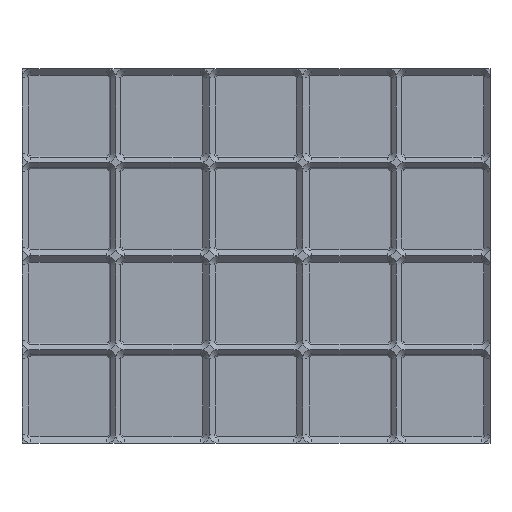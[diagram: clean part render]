
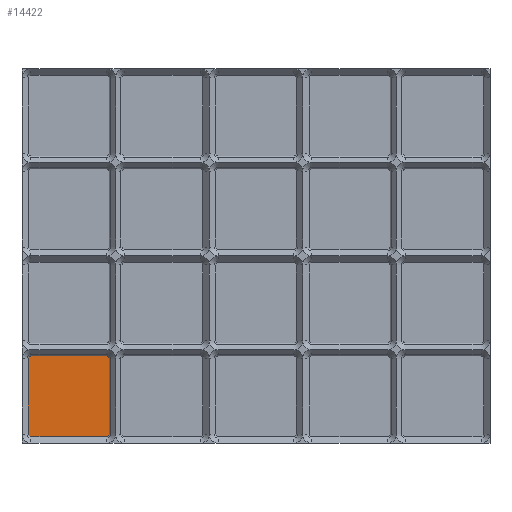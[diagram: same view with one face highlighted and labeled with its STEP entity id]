
A CAD part, top view. The second image highlights one B-rep face of the part: STEP entity #14422.
In plain terms, the highlighted planar face has unit normal (0, 0, 1).
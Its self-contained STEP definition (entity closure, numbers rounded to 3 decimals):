
#5151 = PLANE('',#5152);
#5152 = AXIS2_PLACEMENT_3D('',#5153,#5154,#5155);
#5153 = CARTESIAN_POINT('',(2.85,21.,1.27));
#5154 = DIRECTION('',(-1.,0.,0.));
#5155 = DIRECTION('',(-0.,-1.,-0.));
#7639 = PLANE('',#7640);
#7640 = AXIS2_PLACEMENT_3D('',#7641,#7642,#7643);
#7641 = CARTESIAN_POINT('',(21.,2.85,1.27));
#7642 = DIRECTION('',(0.,-1.,0.));
#7643 = DIRECTION('',(1.,0.,0.));
#8966 = CYLINDRICAL_SURFACE('',#8967,1.15);
#8967 = AXIS2_PLACEMENT_3D('',#8968,#8969,#8970);
#8968 = CARTESIAN_POINT('',(4.,4.,1.));
#8969 = DIRECTION('',(-0.,-0.,1.));
#8970 = DIRECTION('',(-1.,0.,0.));
#8984 = EDGE_CURVE('',#8985,#8987,#8989,.T.);
#8985 = VERTEX_POINT('',#8986);
#8986 = CARTESIAN_POINT('',(2.85,4.,1.));
#8987 = VERTEX_POINT('',#8988);
#8988 = CARTESIAN_POINT('',(2.85,38.,1.));
#8989 = SURFACE_CURVE('',#8990,(#8994,#9001),.PCURVE_S1.);
#8990 = LINE('',#8991,#8992);
#8991 = CARTESIAN_POINT('',(2.85,21.,1.));
#8992 = VECTOR('',#8993,1.);
#8993 = DIRECTION('',(0.,1.,0.));
#8994 = PCURVE('',#5151,#8995);
#8995 = DEFINITIONAL_REPRESENTATION('',(#8996),#9000);
#8996 = LINE('',#8997,#8998);
#8997 = CARTESIAN_POINT('',(0.,-0.27));
#8998 = VECTOR('',#8999,1.);
#8999 = DIRECTION('',(-1.,0.));
#9000 = ( GEOMETRIC_REPRESENTATION_CONTEXT(2) 
PARAMETRIC_REPRESENTATION_CONTEXT() REPRESENTATION_CONTEXT('2D SPACE',''
  ) );
#9001 = PCURVE('',#9002,#9007);
#9002 = PLANE('',#9003);
#9003 = AXIS2_PLACEMENT_3D('',#9004,#9005,#9006);
#9004 = CARTESIAN_POINT('',(4.,4.,1.));
#9005 = DIRECTION('',(0.,0.,-1.));
#9006 = DIRECTION('',(-1.,0.,0.));
#9007 = DEFINITIONAL_REPRESENTATION('',(#9008),#9012);
#9008 = LINE('',#9009,#9010);
#9009 = CARTESIAN_POINT('',(1.15,17.));
#9010 = VECTOR('',#9011,1.);
#9011 = DIRECTION('',(0.,1.));
#9012 = ( GEOMETRIC_REPRESENTATION_CONTEXT(2) 
PARAMETRIC_REPRESENTATION_CONTEXT() REPRESENTATION_CONTEXT('2D SPACE',''
  ) );
#9045 = CYLINDRICAL_SURFACE('',#9046,1.15);
#9046 = AXIS2_PLACEMENT_3D('',#9047,#9048,#9049);
#9047 = CARTESIAN_POINT('',(4.,38.,1.));
#9048 = DIRECTION('',(-0.,-0.,1.));
#9049 = DIRECTION('',(-1.,0.,0.));
#12662 = EDGE_CURVE('',#12663,#12665,#12667,.T.);
#12663 = VERTEX_POINT('',#12664);
#12664 = CARTESIAN_POINT('',(4.,2.85,1.));
#12665 = VERTEX_POINT('',#12666);
#12666 = CARTESIAN_POINT('',(38.,2.85,1.));
#12667 = SURFACE_CURVE('',#12668,(#12672,#12679),.PCURVE_S1.);
#12668 = LINE('',#12669,#12670);
#12669 = CARTESIAN_POINT('',(21.,2.85,1.));
#12670 = VECTOR('',#12671,1.);
#12671 = DIRECTION('',(1.,0.,0.));
#12672 = PCURVE('',#7639,#12673);
#12673 = DEFINITIONAL_REPRESENTATION('',(#12674),#12678);
#12674 = LINE('',#12675,#12676);
#12675 = CARTESIAN_POINT('',(0.,-0.27));
#12676 = VECTOR('',#12677,1.);
#12677 = DIRECTION('',(1.,0.));
#12678 = ( GEOMETRIC_REPRESENTATION_CONTEXT(2) 
PARAMETRIC_REPRESENTATION_CONTEXT() REPRESENTATION_CONTEXT('2D SPACE',''
  ) );
#12679 = PCURVE('',#9002,#12680);
#12680 = DEFINITIONAL_REPRESENTATION('',(#12681),#12685);
#12681 = LINE('',#12682,#12683);
#12682 = CARTESIAN_POINT('',(-17.,-1.15));
#12683 = VECTOR('',#12684,1.);
#12684 = DIRECTION('',(-1.,0.));
#12685 = ( GEOMETRIC_REPRESENTATION_CONTEXT(2) 
PARAMETRIC_REPRESENTATION_CONTEXT() REPRESENTATION_CONTEXT('2D SPACE',''
  ) );
#12699 = CYLINDRICAL_SURFACE('',#12700,1.15);
#12700 = AXIS2_PLACEMENT_3D('',#12701,#12702,#12703);
#12701 = CARTESIAN_POINT('',(38.,4.,1.));
#12702 = DIRECTION('',(-0.,-0.,1.));
#12703 = DIRECTION('',(-1.,0.,0.));
#14398 = EDGE_CURVE('',#12663,#8985,#14399,.T.);
#14399 = SURFACE_CURVE('',#14400,(#14405,#14412),.PCURVE_S1.);
#14400 = CIRCLE('',#14401,1.15);
#14401 = AXIS2_PLACEMENT_3D('',#14402,#14403,#14404);
#14402 = CARTESIAN_POINT('',(4.,4.,1.));
#14403 = DIRECTION('',(0.,0.,-1.));
#14404 = DIRECTION('',(-1.,0.,0.));
#14405 = PCURVE('',#8966,#14406);
#14406 = DEFINITIONAL_REPRESENTATION('',(#14407),#14411);
#14407 = LINE('',#14408,#14409);
#14408 = CARTESIAN_POINT('',(6.283,0.));
#14409 = VECTOR('',#14410,1.);
#14410 = DIRECTION('',(-1.,0.));
#14411 = ( GEOMETRIC_REPRESENTATION_CONTEXT(2) 
PARAMETRIC_REPRESENTATION_CONTEXT() REPRESENTATION_CONTEXT('2D SPACE',''
  ) );
#14412 = PCURVE('',#9002,#14413);
#14413 = DEFINITIONAL_REPRESENTATION('',(#14414),#14418);
#14414 = CIRCLE('',#14415,1.15);
#14415 = AXIS2_PLACEMENT_2D('',#14416,#14417);
#14416 = CARTESIAN_POINT('',(0.,0.));
#14417 = DIRECTION('',(1.,0.));
#14418 = ( GEOMETRIC_REPRESENTATION_CONTEXT(2) 
PARAMETRIC_REPRESENTATION_CONTEXT() REPRESENTATION_CONTEXT('2D SPACE',''
  ) );
#14422 = ADVANCED_FACE('',(#14423),#9002,.F.);
#14423 = FACE_BOUND('',#14424,.T.);
#14424 = EDGE_LOOP('',(#14425,#14426,#14427,#14428,#14452,#14480,#14509,
    #14537));
#14425 = ORIENTED_EDGE('',*,*,#8984,.F.);
#14426 = ORIENTED_EDGE('',*,*,#14398,.F.);
#14427 = ORIENTED_EDGE('',*,*,#12662,.T.);
#14428 = ORIENTED_EDGE('',*,*,#14429,.F.);
#14429 = EDGE_CURVE('',#14430,#12665,#14432,.T.);
#14430 = VERTEX_POINT('',#14431);
#14431 = CARTESIAN_POINT('',(39.15,4.,1.));
#14432 = SURFACE_CURVE('',#14433,(#14438,#14445),.PCURVE_S1.);
#14433 = CIRCLE('',#14434,1.15);
#14434 = AXIS2_PLACEMENT_3D('',#14435,#14436,#14437);
#14435 = CARTESIAN_POINT('',(38.,4.,1.));
#14436 = DIRECTION('',(0.,0.,-1.));
#14437 = DIRECTION('',(-1.,0.,0.));
#14438 = PCURVE('',#9002,#14439);
#14439 = DEFINITIONAL_REPRESENTATION('',(#14440),#14444);
#14440 = CIRCLE('',#14441,1.15);
#14441 = AXIS2_PLACEMENT_2D('',#14442,#14443);
#14442 = CARTESIAN_POINT('',(-34.,0.));
#14443 = DIRECTION('',(1.,0.));
#14444 = ( GEOMETRIC_REPRESENTATION_CONTEXT(2) 
PARAMETRIC_REPRESENTATION_CONTEXT() REPRESENTATION_CONTEXT('2D SPACE',''
  ) );
#14445 = PCURVE('',#12699,#14446);
#14446 = DEFINITIONAL_REPRESENTATION('',(#14447),#14451);
#14447 = LINE('',#14448,#14449);
#14448 = CARTESIAN_POINT('',(6.283,0.));
#14449 = VECTOR('',#14450,1.);
#14450 = DIRECTION('',(-1.,0.));
#14451 = ( GEOMETRIC_REPRESENTATION_CONTEXT(2) 
PARAMETRIC_REPRESENTATION_CONTEXT() REPRESENTATION_CONTEXT('2D SPACE',''
  ) );
#14452 = ORIENTED_EDGE('',*,*,#14453,.T.);
#14453 = EDGE_CURVE('',#14430,#14454,#14456,.T.);
#14454 = VERTEX_POINT('',#14455);
#14455 = CARTESIAN_POINT('',(39.15,38.,1.));
#14456 = SURFACE_CURVE('',#14457,(#14461,#14468),.PCURVE_S1.);
#14457 = LINE('',#14458,#14459);
#14458 = CARTESIAN_POINT('',(39.15,21.,1.));
#14459 = VECTOR('',#14460,1.);
#14460 = DIRECTION('',(0.,1.,0.));
#14461 = PCURVE('',#9002,#14462);
#14462 = DEFINITIONAL_REPRESENTATION('',(#14463),#14467);
#14463 = LINE('',#14464,#14465);
#14464 = CARTESIAN_POINT('',(-35.15,17.));
#14465 = VECTOR('',#14466,1.);
#14466 = DIRECTION('',(0.,1.));
#14467 = ( GEOMETRIC_REPRESENTATION_CONTEXT(2) 
PARAMETRIC_REPRESENTATION_CONTEXT() REPRESENTATION_CONTEXT('2D SPACE',''
  ) );
#14468 = PCURVE('',#14469,#14474);
#14469 = PLANE('',#14470);
#14470 = AXIS2_PLACEMENT_3D('',#14471,#14472,#14473);
#14471 = CARTESIAN_POINT('',(39.15,21.,1.27));
#14472 = DIRECTION('',(1.,0.,0.));
#14473 = DIRECTION('',(-0.,1.,0.));
#14474 = DEFINITIONAL_REPRESENTATION('',(#14475),#14479);
#14475 = LINE('',#14476,#14477);
#14476 = CARTESIAN_POINT('',(0.,-0.27));
#14477 = VECTOR('',#14478,1.);
#14478 = DIRECTION('',(1.,0.));
#14479 = ( GEOMETRIC_REPRESENTATION_CONTEXT(2) 
PARAMETRIC_REPRESENTATION_CONTEXT() REPRESENTATION_CONTEXT('2D SPACE',''
  ) );
#14480 = ORIENTED_EDGE('',*,*,#14481,.F.);
#14481 = EDGE_CURVE('',#14482,#14454,#14484,.T.);
#14482 = VERTEX_POINT('',#14483);
#14483 = CARTESIAN_POINT('',(38.,39.15,1.));
#14484 = SURFACE_CURVE('',#14485,(#14490,#14497),.PCURVE_S1.);
#14485 = CIRCLE('',#14486,1.15);
#14486 = AXIS2_PLACEMENT_3D('',#14487,#14488,#14489);
#14487 = CARTESIAN_POINT('',(38.,38.,1.));
#14488 = DIRECTION('',(0.,0.,-1.));
#14489 = DIRECTION('',(-1.,0.,0.));
#14490 = PCURVE('',#9002,#14491);
#14491 = DEFINITIONAL_REPRESENTATION('',(#14492),#14496);
#14492 = CIRCLE('',#14493,1.15);
#14493 = AXIS2_PLACEMENT_2D('',#14494,#14495);
#14494 = CARTESIAN_POINT('',(-34.,34.));
#14495 = DIRECTION('',(1.,0.));
#14496 = ( GEOMETRIC_REPRESENTATION_CONTEXT(2) 
PARAMETRIC_REPRESENTATION_CONTEXT() REPRESENTATION_CONTEXT('2D SPACE',''
  ) );
#14497 = PCURVE('',#14498,#14503);
#14498 = CYLINDRICAL_SURFACE('',#14499,1.15);
#14499 = AXIS2_PLACEMENT_3D('',#14500,#14501,#14502);
#14500 = CARTESIAN_POINT('',(38.,38.,1.));
#14501 = DIRECTION('',(-0.,-0.,1.));
#14502 = DIRECTION('',(-1.,0.,0.));
#14503 = DEFINITIONAL_REPRESENTATION('',(#14504),#14508);
#14504 = LINE('',#14505,#14506);
#14505 = CARTESIAN_POINT('',(6.283,0.));
#14506 = VECTOR('',#14507,1.);
#14507 = DIRECTION('',(-1.,0.));
#14508 = ( GEOMETRIC_REPRESENTATION_CONTEXT(2) 
PARAMETRIC_REPRESENTATION_CONTEXT() REPRESENTATION_CONTEXT('2D SPACE',''
  ) );
#14509 = ORIENTED_EDGE('',*,*,#14510,.F.);
#14510 = EDGE_CURVE('',#14511,#14482,#14513,.T.);
#14511 = VERTEX_POINT('',#14512);
#14512 = CARTESIAN_POINT('',(4.,39.15,1.));
#14513 = SURFACE_CURVE('',#14514,(#14518,#14525),.PCURVE_S1.);
#14514 = LINE('',#14515,#14516);
#14515 = CARTESIAN_POINT('',(21.,39.15,1.));
#14516 = VECTOR('',#14517,1.);
#14517 = DIRECTION('',(1.,0.,0.));
#14518 = PCURVE('',#9002,#14519);
#14519 = DEFINITIONAL_REPRESENTATION('',(#14520),#14524);
#14520 = LINE('',#14521,#14522);
#14521 = CARTESIAN_POINT('',(-17.,35.15));
#14522 = VECTOR('',#14523,1.);
#14523 = DIRECTION('',(-1.,0.));
#14524 = ( GEOMETRIC_REPRESENTATION_CONTEXT(2) 
PARAMETRIC_REPRESENTATION_CONTEXT() REPRESENTATION_CONTEXT('2D SPACE',''
  ) );
#14525 = PCURVE('',#14526,#14531);
#14526 = PLANE('',#14527);
#14527 = AXIS2_PLACEMENT_3D('',#14528,#14529,#14530);
#14528 = CARTESIAN_POINT('',(21.,39.15,1.27));
#14529 = DIRECTION('',(0.,1.,0.));
#14530 = DIRECTION('',(-1.,0.,0.));
#14531 = DEFINITIONAL_REPRESENTATION('',(#14532),#14536);
#14532 = LINE('',#14533,#14534);
#14533 = CARTESIAN_POINT('',(0.,-0.27));
#14534 = VECTOR('',#14535,1.);
#14535 = DIRECTION('',(-1.,0.));
#14536 = ( GEOMETRIC_REPRESENTATION_CONTEXT(2) 
PARAMETRIC_REPRESENTATION_CONTEXT() REPRESENTATION_CONTEXT('2D SPACE',''
  ) );
#14537 = ORIENTED_EDGE('',*,*,#14538,.F.);
#14538 = EDGE_CURVE('',#8987,#14511,#14539,.T.);
#14539 = SURFACE_CURVE('',#14540,(#14545,#14552),.PCURVE_S1.);
#14540 = CIRCLE('',#14541,1.15);
#14541 = AXIS2_PLACEMENT_3D('',#14542,#14543,#14544);
#14542 = CARTESIAN_POINT('',(4.,38.,1.));
#14543 = DIRECTION('',(0.,0.,-1.));
#14544 = DIRECTION('',(-1.,0.,0.));
#14545 = PCURVE('',#9002,#14546);
#14546 = DEFINITIONAL_REPRESENTATION('',(#14547),#14551);
#14547 = CIRCLE('',#14548,1.15);
#14548 = AXIS2_PLACEMENT_2D('',#14549,#14550);
#14549 = CARTESIAN_POINT('',(0.,34.));
#14550 = DIRECTION('',(1.,0.));
#14551 = ( GEOMETRIC_REPRESENTATION_CONTEXT(2) 
PARAMETRIC_REPRESENTATION_CONTEXT() REPRESENTATION_CONTEXT('2D SPACE',''
  ) );
#14552 = PCURVE('',#9045,#14553);
#14553 = DEFINITIONAL_REPRESENTATION('',(#14554),#14558);
#14554 = LINE('',#14555,#14556);
#14555 = CARTESIAN_POINT('',(6.283,0.));
#14556 = VECTOR('',#14557,1.);
#14557 = DIRECTION('',(-1.,0.));
#14558 = ( GEOMETRIC_REPRESENTATION_CONTEXT(2) 
PARAMETRIC_REPRESENTATION_CONTEXT() REPRESENTATION_CONTEXT('2D SPACE',''
  ) );
